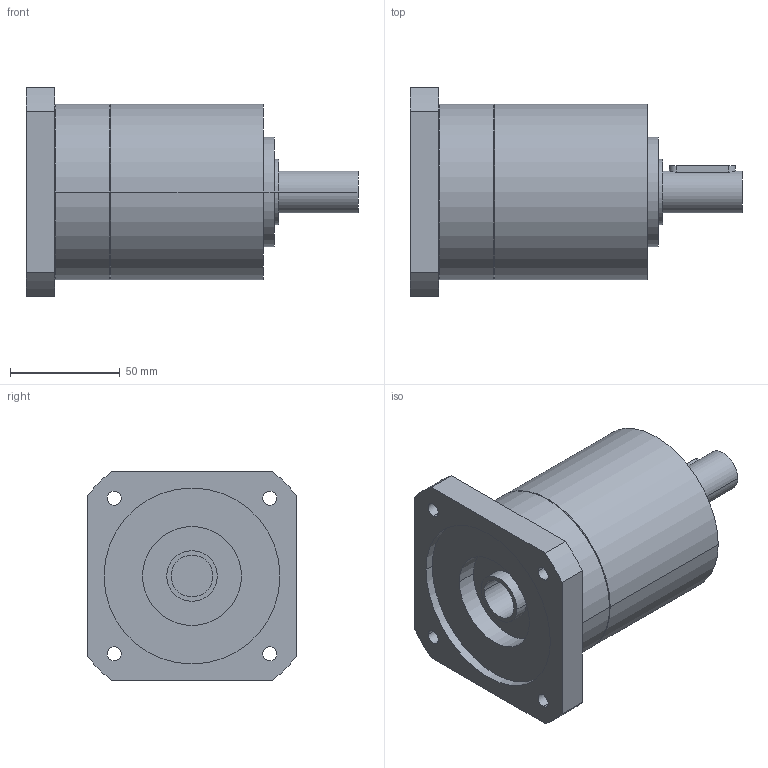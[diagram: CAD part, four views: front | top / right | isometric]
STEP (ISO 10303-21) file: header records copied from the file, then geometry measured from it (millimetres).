
FILE_DESCRIPTION(('CoCreate Modeling STEP Export'),'2;1');
FILE_NAME('GPR100_ig-3-4-5-6_19_B14_19_P06.stp','2014-08-26T10:08:35',(''),(''),'CoCreate Modeling STEP processor for AP214 (Solid Model)','CoCreate Modeling 16.00C 25-Feb-2009 (C) Parametric Technology GmbH','');
FILE_SCHEMA(('AUTOMOTIVE_DESIGN { 1 0 10303 214 1 1 1 1 }'));
Length unit declared in the file: millimetre
Products named in the file (2): GPR100_ig-3-4-5-6_19_B14_19_P06
Assembly tree (1 placements, depth 2):
  GPR100_ig-3-4-5-6_19_B14_19_P06
    GPR100_ig-3-4-5-6_19_B14_19_P06
Bounding box: 151 x 95 x 95 mm (x, y, z)
Volume: 567988.9 mm3; surface area: 56843.3 mm2
Topology: 1 solids, 1 shells, 70 faces, 190 edges, 134 vertices
Faces by surface type: cylinder 42, plane 22, cone 6
Entity records: 1949 total; most frequent: ORIENTED_EDGE 376, CARTESIAN_POINT 362, DIRECTION 262, EDGE_CURVE 188, VERTEX_POINT 134, AXIS2_PLACEMENT_3D 98, EDGE_LOOP 92, FACE_OUTER_BOUND 70
